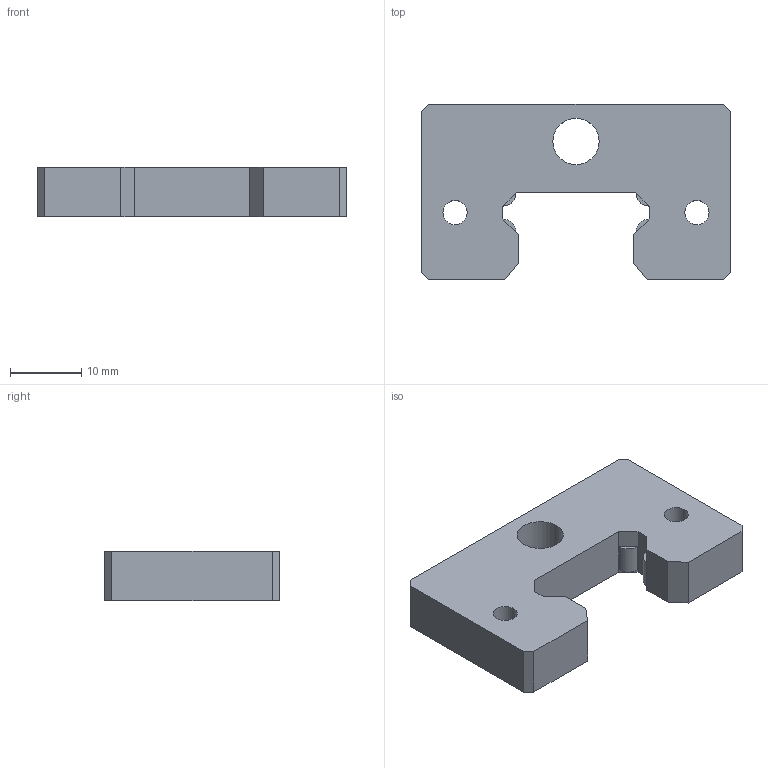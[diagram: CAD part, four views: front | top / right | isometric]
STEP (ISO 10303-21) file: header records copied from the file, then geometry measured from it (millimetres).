
FILE_DESCRIPTION (( 'STEP AP203' ), '1' );
FILE_NAME ('MF 20A (FL,FLL,SL,SLL).STEP', '2014-12-02T23:38:53', ( 'john' ), ( '' ), 'SwSTEP 2.0', 'SolidWorks 2013', '' );
FILE_SCHEMA (( 'CONFIG_CONTROL_DESIGN' ));
Length unit declared in the file: millimetre
Products named in the file (1): MF 20A (FL,FLL,SL,SLL)
Bounding box: 43.4 x 24.6 x 7 mm (x, y, z)
Volume: 5579.9 mm3; surface area: 3011.9 mm2
Topology: 1 solids, 1 shells, 37 faces, 93 edges, 62 vertices
Faces by surface type: plane 30, cylinder 7
Full cylindrical faces by diameter (mm): 3.4 x2, 6.5 x1
Entity records: 1175 total; most frequent: CARTESIAN_POINT 190, ORIENTED_EDGE 180, DIRECTION 180, EDGE_CURVE 90, VECTOR 76, LINE 76, VERTEX_POINT 62, AXIS2_PLACEMENT_3D 52
